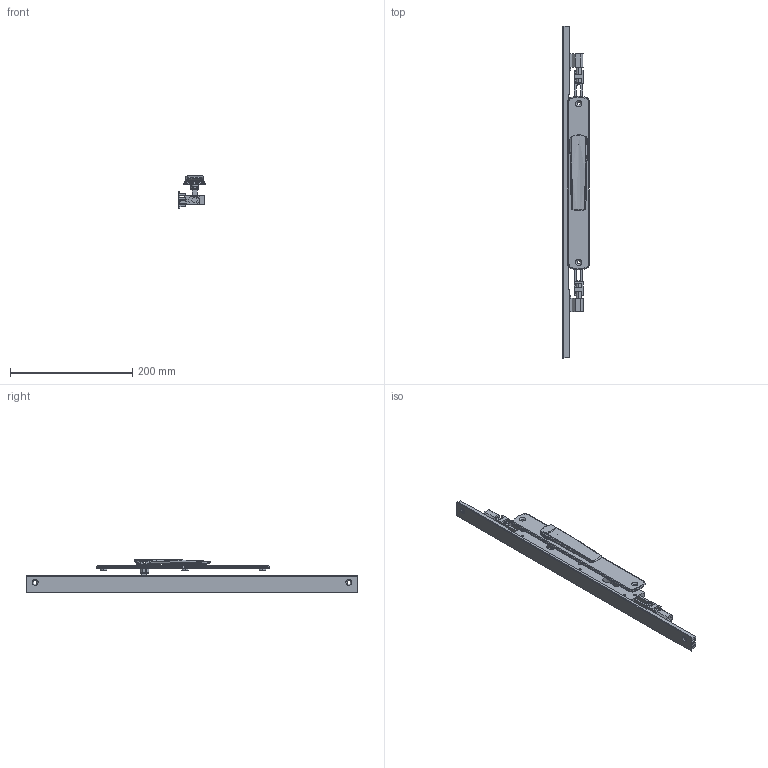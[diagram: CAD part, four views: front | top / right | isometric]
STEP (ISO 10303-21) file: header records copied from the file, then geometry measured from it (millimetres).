
FILE_DESCRIPTION (( 'STEP AP214' ), '1' );
FILE_NAME ('TPL-W-EU-612-L 06Nov2024.STEP', '2024-11-27T01:42:40', ( '' ), ( '' ), 'SwSTEP 2.0', 'SolidWorks 2023', '' );
FILE_SCHEMA (( 'AUTOMOTIVE_DESIGN' ));
Length unit declared in the file: millimetre
Products named in the file (18): Bolt.step; Copy of TPGen2 handle non-keyed long zinc - simplified^TPL-W-EU-112 04Nov2024_Vertical; Copy of Adapter DnF - simplfied^TPL-W-EU-112 04Nov2024_26mm backset; Copy of COV-112-C Cover C TPLGen2 Lock body^TPL-W-EU-112 04Nov2024; Copy of LKC-505 Swing handle zinc - simplified^Copy of TPGen2 handle non-keyed long zinc - simplified_TPL-W-EU-112 04Nov2024; Copy of Copy of LKC-531 Lock twinpoint transmission rod wood system^TPL-W-EU-112 04Nov2024_Standard Range 2891.7mm; Copy of TPLGen2 lock body keyed assembly^TPL-W-EU-112 04Nov2024_Bolts extended; Copy of LKC-583 Escutcheon plate unkeyed 285mm long zinc - simplified^Copy of TPGen2 handle non-keyed long zinc - simplified_TPL-W-EU-112 04Nov2024; Copy (2) of COV-112-B Cover B suit TPLGen2 standard range^TPL-W-EU-112 04Nov2024_2870mm; Copy of TPLGen2 lock body keyed^Copy of TPLGen2 lock body keyed assembly_TPL-W-EU-112 04Nov2024; Copy of LKC-585 Rotator body zinc^Copy of TPGen2 handle non-keyed long zinc - simplified_TPL-W-EU-112 04Nov2024; Copy of Adapter CnE - simplfied^TPL-W-EU-112 04Nov2024_26mm backset; TPL-W-EU-612-L 06Nov2024; Copy of COV-112-A Cover A suit TPLGen2 standard range^TPL-W-EU-112 04Nov2024_2870mm; Copy of TPLGen2 push rod - simplified^Copy of TPLGen2 lock body keyed assembly_TPL-W-EU-112 04Nov2024_Female thread M10; Copy of LKC-584 Pivot body zinc - simplified^Copy of TPGen2 handle non-keyed long zinc - simplified_TPL-W-EU-112 04Nov2024; Copy of LKC-586 Spindle square 8mm with M4 hole^Copy of TPGen2 handle non-keyed long zinc - simplified_TPL-W-EU-112 04Nov2024_25mm; Copy of Copy of Copy of LKC-531 Lock twinpoint transmission rod wood system^TPL-W-EU-112 04Nov2024_Standard Range 2891.7mm
Assembly tree (15 placements, depth 3):
  Bolt.step
  Copy (2) of COV-112-B Cover B suit TPLGen2 standard range^TPL-W-EU-112 04Nov2024_2870mm
  TPL-W-EU-612-L 06Nov2024
    Copy of TPLGen2 lock body keyed assembly^TPL-W-EU-112 04Nov2024_Bolts extended
      Copy of TPLGen2 lock body keyed^Copy of TPLGen2 lock body keyed assembly_TPL-W-EU-112 04Nov2024
      Copy of TPLGen2 push rod - simplified^Copy of TPLGen2 lock body keyed assembly_TPL-W-EU-112 04Nov2024_Female thread M10  x2
    Copy of TPGen2 handle non-keyed long zinc - simplified^TPL-W-EU-112 04Nov2024_Vertical
      Copy of LKC-583 Escutcheon plate unkeyed 285mm long zinc - simplified^Copy of TPGen2 handle non-keyed long zinc - simplified_TPL-W-EU-112 04Nov2024
      Copy of LKC-505 Swing handle zinc - simplified^Copy of TPGen2 handle non-keyed long zinc - simplified_TPL-W-EU-112 04Nov2024
      Copy of LKC-585 Rotator body zinc^Copy of TPGen2 handle non-keyed long zinc - simplified_TPL-W-EU-112 04Nov2024
      Copy of LKC-586 Spindle square 8mm with M4 hole^Copy of TPGen2 handle non-keyed long zinc - simplified_TPL-W-EU-112 04Nov2024_25mm
      Copy of LKC-584 Pivot body zinc - simplified^Copy of TPGen2 handle non-keyed long zinc - simplified_TPL-W-EU-112 04Nov2024
    Copy of COV-112-C Cover C TPLGen2 Lock body^TPL-W-EU-112 04Nov2024
    Copy of Copy of LKC-531 Lock twinpoint transmission rod wood system^TPL-W-EU-112 04Nov2024_Standard Range 2891.7mm
    Copy of Copy of Copy of LKC-531 Lock twinpoint transmission rod wood system^TPL-W-EU-112 04Nov2024_Standard Range 2891.7mm
    Copy of Adapter CnE - simplfied^TPL-W-EU-112 04Nov2024_26mm backset
    Copy of Adapter DnF - simplfied^TPL-W-EU-112 04Nov2024_26mm backset
  Copy of COV-112-A Cover A suit TPLGen2 standard range^TPL-W-EU-112 04Nov2024_2870mm
Bounding box: 43.5 x 544 x 53.86 mm (x, y, z)
Volume: 269442.8 mm3; surface area: 134922.3 mm2
Topology: 13 solids, 13 shells, 887 faces, 2187 edges, 1360 vertices
Faces by surface type: plane 310, bspline 241, cylinder 206, cone 70, torus 52, sphere 8
Entity records: 31804 total; most frequent: CARTESIAN_POINT 12765, ORIENTED_EDGE 4182, DIRECTION 3417, EDGE_CURVE 2091, VERTEX_POINT 1300, AXIS2_PLACEMENT_3D 1254, EDGE_LOOP 947, VECTOR 909
